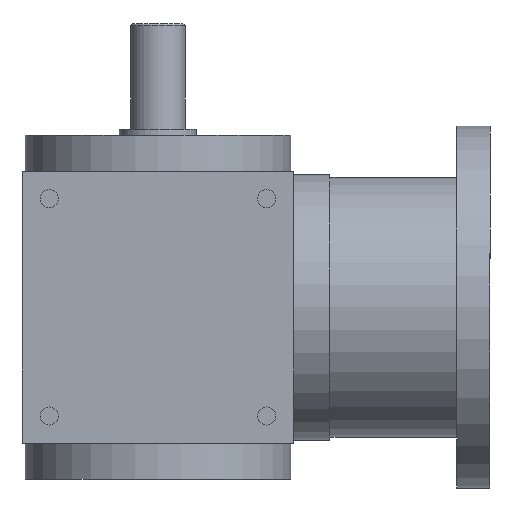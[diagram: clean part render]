
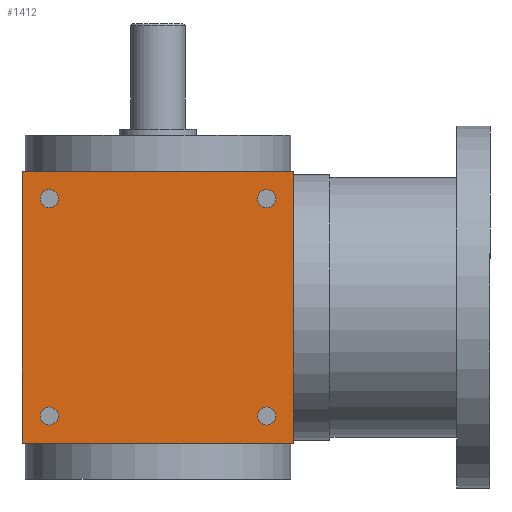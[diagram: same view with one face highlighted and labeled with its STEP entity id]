
A CAD part, left-side view. The second image highlights one B-rep face of the part: STEP entity #1412.
In plain terms, the highlighted planar face has unit normal (-1, 0, 0).
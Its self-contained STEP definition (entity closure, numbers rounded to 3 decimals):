
#40 = CARTESIAN_POINT ( 'NONE',  ( -45., 45., -45. ) ) ;
#57 = VERTEX_POINT ( 'NONE', #1610 ) ;
#63 = EDGE_CURVE ( 'NONE', #57, #5053, #918, .T. ) ;
#99 = CARTESIAN_POINT ( 'NONE',  ( -45., -45., -45. ) ) ;
#104 = DIRECTION ( 'NONE',  ( 1., 0., 0. ) ) ;
#197 = DIRECTION ( 'NONE',  ( 1., 0., 0. ) ) ;
#251 = EDGE_LOOP ( 'NONE', ( #4212, #5045 ) ) ;
#285 = EDGE_CURVE ( 'NONE', #1791, #3850, #2609, .T. ) ;
#347 = CARTESIAN_POINT ( 'NONE',  ( -45., -36., 39. ) ) ;
#380 = DIRECTION ( 'NONE',  ( 1., 0., 0. ) ) ;
#504 = CARTESIAN_POINT ( 'NONE',  ( -45., -45., 45. ) ) ;
#573 = VERTEX_POINT ( 'NONE', #4488 ) ;
#574 = DIRECTION ( 'NONE',  ( 1., 0., 0. ) ) ;
#611 = EDGE_CURVE ( 'NONE', #5053, #57, #1939, .T. ) ;
#614 = CARTESIAN_POINT ( 'NONE',  ( -45., 36., 33. ) ) ;
#795 = DIRECTION ( 'NONE',  ( 0., 0., -1. ) ) ;
#800 = EDGE_CURVE ( 'NONE', #2850, #5105, #3966, .T. ) ;
#918 = CIRCLE ( 'NONE', #1354, 3. ) ;
#922 = DIRECTION ( 'NONE',  ( 0., 0., -1. ) ) ;
#959 = FACE_BOUND ( 'NONE', #251, .T. ) ;
#1034 = CIRCLE ( 'NONE', #4458, 3. ) ;
#1205 = CARTESIAN_POINT ( 'NONE',  ( -45., 36., 36. ) ) ;
#1354 = AXIS2_PLACEMENT_3D ( 'NONE', #2780, #1626, #3604 ) ;
#1361 = EDGE_CURVE ( 'NONE', #5105, #2850, #3665, .T. ) ;
#1412 = ADVANCED_FACE ( 'NONE', ( #1812, #4579, #3960, #2352, #959 ), #4403, .F. ) ;
#1465 = VERTEX_POINT ( 'NONE', #3219 ) ;
#1580 = VECTOR ( 'NONE', #3028, 1000. ) ;
#1610 = CARTESIAN_POINT ( 'NONE',  ( -45., -36., 33. ) ) ;
#1624 = LINE ( 'NONE', #1903, #4636 ) ;
#1626 = DIRECTION ( 'NONE',  ( 1., 0., 0. ) ) ;
#1630 = AXIS2_PLACEMENT_3D ( 'NONE', #3633, #4051, #922 ) ;
#1678 = AXIS2_PLACEMENT_3D ( 'NONE', #4976, #4539, #4116 ) ;
#1692 = AXIS2_PLACEMENT_3D ( 'NONE', #3248, #574, #3710 ) ;
#1722 = AXIS2_PLACEMENT_3D ( 'NONE', #3923, #2748, #5126 ) ;
#1774 = VERTEX_POINT ( 'NONE', #504 ) ;
#1791 = VERTEX_POINT ( 'NONE', #99 ) ;
#1812 = FACE_OUTER_BOUND ( 'NONE', #3223, .T. ) ;
#1880 = ORIENTED_EDGE ( 'NONE', *, *, #611, .T. ) ;
#1886 = ORIENTED_EDGE ( 'NONE', *, *, #4632, .F. ) ;
#1903 = CARTESIAN_POINT ( 'NONE',  ( -45., 45., 45. ) ) ;
#1939 = CIRCLE ( 'NONE', #1678, 3. ) ;
#1965 = EDGE_CURVE ( 'NONE', #1465, #573, #2844, .T. ) ;
#1998 = VECTOR ( 'NONE', #4264, 1000. ) ;
#2062 = EDGE_CURVE ( 'NONE', #2727, #1774, #1624, .T. ) ;
#2136 = EDGE_CURVE ( 'NONE', #2209, #3198, #5016, .T. ) ;
#2171 = EDGE_CURVE ( 'NONE', #3850, #2727, #3720, .T. ) ;
#2204 = EDGE_LOOP ( 'NONE', ( #1880, #3973 ) ) ;
#2209 = VERTEX_POINT ( 'NONE', #2848 ) ;
#2252 = VECTOR ( 'NONE', #4366, 1000. ) ;
#2352 = FACE_BOUND ( 'NONE', #2204, .T. ) ;
#2358 = CARTESIAN_POINT ( 'NONE',  ( -45., -45., 45. ) ) ;
#2427 = DIRECTION ( 'NONE',  ( 0., 0., -1. ) ) ;
#2482 = ORIENTED_EDGE ( 'NONE', *, *, #285, .F. ) ;
#2501 = CARTESIAN_POINT ( 'NONE',  ( -45., 36., 36. ) ) ;
#2592 = AXIS2_PLACEMENT_3D ( 'NONE', #3727, #197, #4102 ) ;
#2609 = LINE ( 'NONE', #4640, #1580 ) ;
#2640 = ORIENTED_EDGE ( 'NONE', *, *, #2136, .T. ) ;
#2653 = CIRCLE ( 'NONE', #1692, 3. ) ;
#2683 = LINE ( 'NONE', #2358, #2252 ) ;
#2708 = EDGE_CURVE ( 'NONE', #573, #1465, #2653, .T. ) ;
#2717 = DIRECTION ( 'NONE',  ( 1., 0., 0. ) ) ;
#2727 = VERTEX_POINT ( 'NONE', #4115 ) ;
#2748 = DIRECTION ( 'NONE',  ( 1., 0., 0. ) ) ;
#2780 = CARTESIAN_POINT ( 'NONE',  ( -45., -36., 36. ) ) ;
#2844 = CIRCLE ( 'NONE', #2592, 3. ) ;
#2848 = CARTESIAN_POINT ( 'NONE',  ( -45., 36., -33. ) ) ;
#2850 = VERTEX_POINT ( 'NONE', #614 ) ;
#2947 = CARTESIAN_POINT ( 'NONE',  ( -45., 36., -39. ) ) ;
#3028 = DIRECTION ( 'NONE',  ( 0., 1., 0. ) ) ;
#3198 = VERTEX_POINT ( 'NONE', #2947 ) ;
#3219 = CARTESIAN_POINT ( 'NONE',  ( -45., -36., -39. ) ) ;
#3223 = EDGE_LOOP ( 'NONE', ( #3527, #3628, #2482, #1886 ) ) ;
#3248 = CARTESIAN_POINT ( 'NONE',  ( -45., -36., -36. ) ) ;
#3463 = AXIS2_PLACEMENT_3D ( 'NONE', #2501, #104, #2427 ) ;
#3527 = ORIENTED_EDGE ( 'NONE', *, *, #2062, .F. ) ;
#3604 = DIRECTION ( 'NONE',  ( 0., 0., -1. ) ) ;
#3628 = ORIENTED_EDGE ( 'NONE', *, *, #2171, .F. ) ;
#3633 = CARTESIAN_POINT ( 'NONE',  ( -45., -45., 45. ) ) ;
#3665 = CIRCLE ( 'NONE', #3463, 3. ) ;
#3710 = DIRECTION ( 'NONE',  ( 0., 0., -1. ) ) ;
#3720 = LINE ( 'NONE', #4718, #1998 ) ;
#3727 = CARTESIAN_POINT ( 'NONE',  ( -45., -36., -36. ) ) ;
#3827 = DIRECTION ( 'NONE',  ( 0., -1., 0. ) ) ;
#3850 = VERTEX_POINT ( 'NONE', #40 ) ;
#3923 = CARTESIAN_POINT ( 'NONE',  ( -45., 36., -36. ) ) ;
#3960 = FACE_BOUND ( 'NONE', #4289, .T. ) ;
#3966 = CIRCLE ( 'NONE', #4737, 3. ) ;
#3973 = ORIENTED_EDGE ( 'NONE', *, *, #63, .T. ) ;
#4051 = DIRECTION ( 'NONE',  ( 1., 0., 0. ) ) ;
#4102 = DIRECTION ( 'NONE',  ( 0., 0., -1. ) ) ;
#4115 = CARTESIAN_POINT ( 'NONE',  ( -45., 45., 45. ) ) ;
#4116 = DIRECTION ( 'NONE',  ( 0., 0., -1. ) ) ;
#4212 = ORIENTED_EDGE ( 'NONE', *, *, #2708, .T. ) ;
#4264 = DIRECTION ( 'NONE',  ( 0., 0., 1. ) ) ;
#4286 = CARTESIAN_POINT ( 'NONE',  ( -45., 36., 39. ) ) ;
#4289 = EDGE_LOOP ( 'NONE', ( #2640, #4972 ) ) ;
#4300 = ORIENTED_EDGE ( 'NONE', *, *, #800, .T. ) ;
#4366 = DIRECTION ( 'NONE',  ( 0., 0., -1. ) ) ;
#4403 = PLANE ( 'NONE',  #1630 ) ;
#4458 = AXIS2_PLACEMENT_3D ( 'NONE', #5094, #2717, #795 ) ;
#4488 = CARTESIAN_POINT ( 'NONE',  ( -45., -36., -33. ) ) ;
#4492 = ORIENTED_EDGE ( 'NONE', *, *, #1361, .T. ) ;
#4539 = DIRECTION ( 'NONE',  ( 1., 0., 0. ) ) ;
#4579 = FACE_BOUND ( 'NONE', #4859, .T. ) ;
#4632 = EDGE_CURVE ( 'NONE', #1774, #1791, #2683, .T. ) ;
#4636 = VECTOR ( 'NONE', #3827, 1000. ) ;
#4640 = CARTESIAN_POINT ( 'NONE',  ( -45., 45., -45. ) ) ;
#4718 = CARTESIAN_POINT ( 'NONE',  ( -45., 45., 45. ) ) ;
#4736 = DIRECTION ( 'NONE',  ( 0., 0., -1. ) ) ;
#4737 = AXIS2_PLACEMENT_3D ( 'NONE', #1205, #380, #4736 ) ;
#4859 = EDGE_LOOP ( 'NONE', ( #4492, #4300 ) ) ;
#4972 = ORIENTED_EDGE ( 'NONE', *, *, #5127, .T. ) ;
#4976 = CARTESIAN_POINT ( 'NONE',  ( -45., -36., 36. ) ) ;
#5016 = CIRCLE ( 'NONE', #1722, 3. ) ;
#5045 = ORIENTED_EDGE ( 'NONE', *, *, #1965, .T. ) ;
#5053 = VERTEX_POINT ( 'NONE', #347 ) ;
#5094 = CARTESIAN_POINT ( 'NONE',  ( -45., 36., -36. ) ) ;
#5105 = VERTEX_POINT ( 'NONE', #4286 ) ;
#5126 = DIRECTION ( 'NONE',  ( 0., 0., -1. ) ) ;
#5127 = EDGE_CURVE ( 'NONE', #3198, #2209, #1034, .T. ) ;
